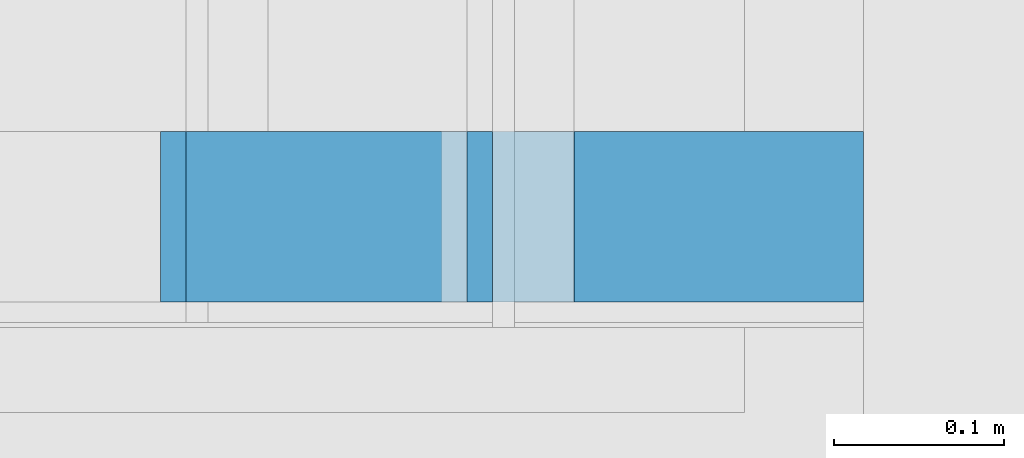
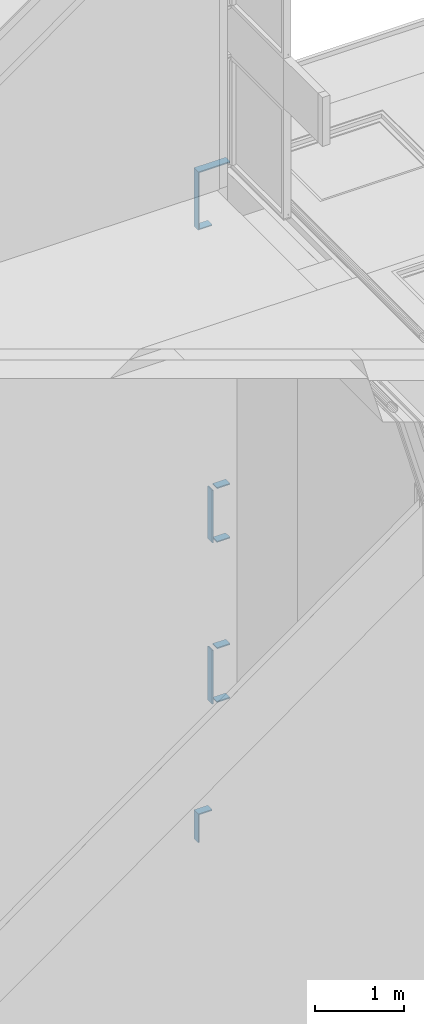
# One storey, part 194 of 583: 11 building element parts, 11 elements without a shape of their own.
"""IFC2X3 building model written with IfcOpenShell, lengths in metres."""

from ifc_helpers import new_model, entity, si_unit, converted_unit, derived_unit, money_unit, direction, frame, frame_2d, origin_with_axes, place, context, subcontext, project, spatial, polyline, rectangle, outline, extrude, material, type_object, element, aggregate, save


model = new_model("IFC2X3")

# Units and contexts
model_context = context("Model", 3, precision=1e-05, world=origin_with_axes(), true_north=direction((0.0, 1.0)))
body_context = subcontext(model_context, "Body", "Model", "MODEL_VIEW", scale=1.0)
ifc_project = project(units=[si_unit("LENGTHUNIT", "METRE"), si_unit("AREAUNIT", "SQUARE_METRE"), si_unit("VOLUMEUNIT", "CUBIC_METRE"), si_unit("ABSORBEDDOSEUNIT", "GRAY"), si_unit("AMOUNTOFSUBSTANCEUNIT", "MOLE"), si_unit("DOSEEQUIVALENTUNIT", "SIEVERT"), si_unit("ELECTRICCAPACITANCEUNIT", "FARAD"), si_unit("ELECTRICCHARGEUNIT", "COULOMB"), si_unit("ELECTRICCONDUCTANCEUNIT", "SIEMENS"), si_unit("ELECTRICCURRENTUNIT", "AMPERE"), si_unit("ELECTRICRESISTANCEUNIT", "OHM"), si_unit("ELECTRICVOLTAGEUNIT", "VOLT"), si_unit("ENERGYUNIT", "JOULE"), si_unit("FORCEUNIT", "NEWTON"), si_unit("FREQUENCYUNIT", "HERTZ"), si_unit("ILLUMINANCEUNIT", "LUX"), si_unit("INDUCTANCEUNIT", "HENRY"), si_unit("LUMINOUSFLUXUNIT", "LUMEN"), si_unit("LUMINOUSINTENSITYUNIT", "CANDELA"), si_unit("MAGNETICFLUXDENSITYUNIT", "TESLA"), si_unit("MAGNETICFLUXUNIT", "WEBER"), si_unit("MASSUNIT", "GRAM"), converted_unit("PLANEANGLEUNIT", "degree", entity("IfcReal", 0.0174532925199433), si_unit("PLANEANGLEUNIT", "RADIAN"), dimensions=[0, 0, 0, 0, 0, 0, 0]), si_unit("POWERUNIT", "WATT"), si_unit("PRESSUREUNIT", "PASCAL"), si_unit("RADIOACTIVITYUNIT", "BECQUEREL"), si_unit("SOLIDANGLEUNIT", "STERADIAN"), si_unit("THERMODYNAMICTEMPERATUREUNIT", "KELVIN"), si_unit("TIMEUNIT", "SECOND"), derived_unit("ACCELERATIONUNIT", [(si_unit("LENGTHUNIT", "METRE"), 1), (si_unit("TIMEUNIT", "SECOND"), -2)]), derived_unit("ANGULARVELOCITYUNIT", [(converted_unit("PLANEANGLEUNIT", "degree", entity("IfcReal", 0.0174532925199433), si_unit("PLANEANGLEUNIT", "RADIAN"), dimensions=[0, 0, 0, 0, 0, 0, 0]), 1), (si_unit("TIMEUNIT", "SECOND"), -1)]), derived_unit("CURVATUREUNIT", [(converted_unit("PLANEANGLEUNIT", "degree", entity("IfcReal", 0.0174532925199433), si_unit("PLANEANGLEUNIT", "RADIAN"), dimensions=[0, 0, 0, 0, 0, 0, 0]), 1), (si_unit("LENGTHUNIT", "METRE"), -1)]), derived_unit("DYNAMICVISCOSITYUNIT", [(si_unit("PRESSUREUNIT", "PASCAL"), 1), (si_unit("TIMEUNIT", "SECOND"), 1)]), derived_unit("HEATFLUXDENSITYUNIT", [(si_unit("POWERUNIT", "WATT"), 1), (si_unit("LENGTHUNIT", "METRE"), -2)]), derived_unit("HEATINGVALUEUNIT", [(si_unit("ENERGYUNIT", "JOULE"), 1), (si_unit("MASSUNIT", "GRAM"), -1)]), derived_unit("INTEGERCOUNTRATEUNIT", [(si_unit("TIMEUNIT", "SECOND"), -1)]), derived_unit("IONCONCENTRATIONUNIT", [(si_unit("MASSUNIT", "GRAM"), 1), (si_unit("VOLUMEUNIT", "CUBIC_METRE"), -1)]), derived_unit("ISOTHERMALMOISTURECAPACITYUNIT", [(si_unit("VOLUMEUNIT", "CUBIC_METRE"), 1), (si_unit("MASSUNIT", "GRAM"), -1)]), derived_unit("KINEMATICVISCOSITYUNIT", [(si_unit("AREAUNIT", "SQUARE_METRE"), 1), (si_unit("TIMEUNIT", "SECOND"), -1)]), derived_unit("LINEARFORCEUNIT", [(si_unit("FORCEUNIT", "NEWTON"), 1), (si_unit("LENGTHUNIT", "METRE"), -1)]), derived_unit("LINEARMOMENTUNIT", [(si_unit("FORCEUNIT", "NEWTON"), 1), (si_unit("LENGTHUNIT", "METRE"), -1)]), derived_unit("LINEARSTIFFNESSUNIT", [(si_unit("FORCEUNIT", "NEWTON"), 1), (si_unit("LENGTHUNIT", "METRE"), -1)]), derived_unit("LINEARVELOCITYUNIT", [(si_unit("LENGTHUNIT", "METRE"), 1), (si_unit("TIMEUNIT", "SECOND"), -1)]), derived_unit("LUMINOUSINTENSITYDISTRIBUTIONUNIT", [(si_unit("LUMINOUSINTENSITYUNIT", "CANDELA"), 1), (si_unit("LUMINOUSFLUXUNIT", "LUMEN"), -1)]), derived_unit("MASSDENSITYUNIT", [(si_unit("MASSUNIT", "GRAM"), 1), (si_unit("VOLUMEUNIT", "CUBIC_METRE"), -1)]), derived_unit("MASSFLOWRATEUNIT", [(si_unit("MASSUNIT", "GRAM"), 1), (si_unit("TIMEUNIT", "SECOND"), -1)]), derived_unit("MASSPERLENGTHUNIT", [(si_unit("MASSUNIT", "GRAM"), 1), (si_unit("LENGTHUNIT", "METRE"), -1)]), derived_unit("MODULUSOFELASTICITYUNIT", [(si_unit("FORCEUNIT", "NEWTON"), 1), (si_unit("AREAUNIT", "SQUARE_METRE"), -1)]), derived_unit("MODULUSOFLINEARSUBGRADEREACTIONUNIT", [(si_unit("FORCEUNIT", "NEWTON"), 1), (si_unit("LENGTHUNIT", "METRE"), -2)]), derived_unit("MODULUSOFROTATIONALSUBGRADEREACTIONUNIT", [(si_unit("FORCEUNIT", "NEWTON"), 1), (si_unit("LENGTHUNIT", "METRE"), 1)]), derived_unit("MODULUSOFSUBGRADEREACTIONUNIT", [(si_unit("FORCEUNIT", "NEWTON"), 1), (si_unit("VOLUMEUNIT", "CUBIC_METRE"), -1)]), derived_unit("MOISTUREDIFFUSIVITYUNIT", [(si_unit("VOLUMEUNIT", "CUBIC_METRE"), 1), (si_unit("TIMEUNIT", "SECOND"), -1)]), derived_unit("MOLECULARWEIGHTUNIT", [(si_unit("MASSUNIT", "GRAM"), 1), (si_unit("AMOUNTOFSUBSTANCEUNIT", "MOLE"), -1)]), derived_unit("PLANARFORCEUNIT", [(si_unit("FORCEUNIT", "NEWTON"), 1), (si_unit("LENGTHUNIT", "METRE"), -2)]), derived_unit("ROTATIONALFREQUENCYUNIT", [(si_unit("TIMEUNIT", "SECOND"), -1)]), derived_unit("ROTATIONALMASSUNIT", [(si_unit("MASSUNIT", "GRAM"), 1), (si_unit("LENGTHUNIT", "METRE"), 2)]), derived_unit("ROTATIONALSTIFFNESSUNIT", [(si_unit("FORCEUNIT", "NEWTON"), 1), (si_unit("LENGTHUNIT", "METRE"), 1), (converted_unit("PLANEANGLEUNIT", "degree", entity("IfcReal", 0.0174532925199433), si_unit("PLANEANGLEUNIT", "RADIAN"), dimensions=[0, 0, 0, 0, 0, 0, 0]), -1)]), derived_unit("SECTIONAREAINTEGRALUNIT", [(si_unit("LENGTHUNIT", "METRE"), 5)]), derived_unit("SECTIONMODULUSUNIT", [(si_unit("LENGTHUNIT", "METRE"), 3)]), derived_unit("SHEARMODULUSUNIT", [(si_unit("FORCEUNIT", "NEWTON"), 1), (si_unit("AREAUNIT", "SQUARE_METRE"), -1)]), derived_unit("SOUNDPOWERUNIT", [(si_unit("ENERGYUNIT", "JOULE"), 1), (si_unit("TIMEUNIT", "SECOND"), -1)]), derived_unit("SPECIFICHEATCAPACITYUNIT", [(si_unit("FORCEUNIT", "NEWTON"), 1), (si_unit("MASSUNIT", "GRAM"), -1), (si_unit("THERMODYNAMICTEMPERATUREUNIT", "KELVIN"), -1)]), derived_unit("TEMPERATUREGRADIENTUNIT", [(si_unit("THERMODYNAMICTEMPERATUREUNIT", "KELVIN"), 1), (si_unit("LENGTHUNIT", "METRE"), -1)]), derived_unit("THERMALADMITTANCEUNIT", [(si_unit("POWERUNIT", "WATT"), 1), (si_unit("AREAUNIT", "SQUARE_METRE"), -1), (si_unit("THERMODYNAMICTEMPERATUREUNIT", "KELVIN"), -1)]), derived_unit("THERMALCONDUCTANCEUNIT", [(si_unit("POWERUNIT", "WATT"), 1), (si_unit("LENGTHUNIT", "METRE"), -1), (si_unit("THERMODYNAMICTEMPERATUREUNIT", "KELVIN"), -1)]), derived_unit("THERMALEXPANSIONCOEFFICIENTUNIT", [(si_unit("THERMODYNAMICTEMPERATUREUNIT", "KELVIN"), -1)]), derived_unit("THERMALRESISTANCEUNIT", [(si_unit("AREAUNIT", "SQUARE_METRE"), 1), (si_unit("POWERUNIT", "WATT"), -1)]), derived_unit("THERMALTRANSMITTANCEUNIT", [(si_unit("POWERUNIT", "WATT"), 1), (si_unit("AREAUNIT", "SQUARE_METRE"), -1), (si_unit("THERMODYNAMICTEMPERATUREUNIT", "KELVIN"), -1)]), derived_unit("TORQUEUNIT", [(si_unit("FORCEUNIT", "NEWTON"), 1), (si_unit("LENGTHUNIT", "METRE"), 1)]), derived_unit("VAPORPERMEABILITYUNIT", [(si_unit("MASSUNIT", "GRAM"), 1), (si_unit("TIMEUNIT", "SECOND"), -1)]), derived_unit("VOLUMETRICFLOWRATEUNIT", [(si_unit("VOLUMEUNIT", "CUBIC_METRE"), 1), (si_unit("TIMEUNIT", "SECOND"), -1)]), derived_unit("WARPINGCONSTANTUNIT", [(si_unit("LENGTHUNIT", "METRE"), 6)]), derived_unit("WARPINGMOMENTUNIT", [(si_unit("FORCEUNIT", "NEWTON"), 1), (si_unit("LENGTHUNIT", "METRE"), 2)]), money_unit("GBP")], contexts=[model_context])

# Site, building, storey
site_placement = place(None, origin_with_axes())
site = spatial("IfcSite", under=ifc_project, at=site_placement, Name="Site", CompositionType="ELEMENT")
building_placement = place(site_placement, origin_with_axes())
building = spatial("IfcBuilding", under=site, at=building_placement, Name="Building01", CompositionType="ELEMENT")
storey_placement = place(building_placement, frame((0.0, 0.0, 20.78), z_axis=(0.0, 0.0, 1.0), x_axis=(1.0, 0.0, 0.0)))
storey = spatial("IfcBuildingStorey", under=building, at=storey_placement, Name="RL", CompositionType="ELEMENT", Elevation=20.78)

# Wall, building element part
wall_type = type_object("IfcWallType", Name="SHE_A-Walls_Type06d_ExternalWallInsulation_48mm", PredefinedType="NOTDEFINED")
wall_1_placement = place(storey_placement, frame((14.8, 5.15, -11.32), z_axis=(0.0, 1.0, 0.0), x_axis=(-1.0, 0.0, 0.0)))
wall_1 = element("IfcWall", 1, at=wall_1_placement, inside=storey, type_object=wall_type, Name="6D", ObjectType="SHE_A-Walls_Type06d_ExternalWallInsulation_48mm")
ifc_material = material(Name="A_BSUK_Walls_Timber")
building_element_part_1_placement = place(wall_1_placement, origin_with_axes())
building_element_part_1 = element("IfcBuildingElementPart", 2, at=building_element_part_1_placement, material=ifc_material, Name="2", context=body_context, shape_type="SweptSolid", body=[
    extrude(outline(polyline([(0.413, 0.063), (0.0, 0.063), (0.0, 0.048), (0.398, 0.048), (0.413, 0.063)])), frame((0.0, 0.0, 0.015), z_axis=(0.0, 0.0, 1.0), x_axis=(1.0, 0.0, 0.0)), (0.0, 0.0, 1.0), 0.1),
])
aggregate(wall_1, [building_element_part_1])

wall_2_placement = place(storey_placement, frame((14.45, 5.15, -11.284), z_axis=(0.0, 1.0, 0.0), x_axis=(0.0, 0.0, -1.0)))
wall_2 = element("IfcWall", 3, at=wall_2_placement, inside=storey, type_object=wall_type, Name="6D", ObjectType="SHE_A-Walls_Type06d_ExternalWallInsulation_48mm")
building_element_part_2_placement = place(wall_2_placement, origin_with_axes())
building_element_part_2 = element("IfcBuildingElementPart", 4, at=building_element_part_2_placement, material=ifc_material, Name="2", context=body_context, shape_type="SweptSolid", body=[
    extrude(outline(polyline([(0.769, 0.063), (-0.027, 0.063), (-0.012, 0.048), (0.754, 0.048), (0.769, 0.063)])), frame((0.0, 0.0, 0.015), z_axis=(0.0, 0.0, 1.0), x_axis=(1.0, 0.0, 0.0)), (0.0, 0.0, 1.0), 0.1),
])
aggregate(wall_2, [building_element_part_2])

wall_3_placement = place(storey_placement, frame((14.45, 5.15, -11.99), z_axis=(0.0, 1.0, 0.0), x_axis=(1.0, 0.0, 0.0)))
wall_3 = element("IfcWall", 5, at=wall_3_placement, inside=storey, type_object=wall_type, Name="6D", ObjectType="SHE_A-Walls_Type06d_ExternalWallInsulation_48mm")
building_element_part_3_placement = place(wall_3_placement, origin_with_axes())
building_element_part_3 = element("IfcBuildingElementPart", 6, at=building_element_part_3_placement, material=ifc_material, Name="2", context=body_context, shape_type="SweptSolid", body=[
    extrude(outline(polyline([(0.117, 0.063), (-0.063, 0.063), (-0.048, 0.048), (0.117, 0.048), (0.117, 0.063)])), frame((0.0, 0.0, 0.015), z_axis=(0.0, 0.0, 1.0), x_axis=(1.0, 0.0, 0.0)), (0.0, 0.0, 1.0), 0.1),
])
aggregate(wall_3, [building_element_part_3])

wall_4_placement = place(storey_placement, frame((14.63, 5.15, -15.687), z_axis=(0.0, 1.0, 0.0), x_axis=(1.0, 0.0, 0.0)))
wall_4 = element("IfcWall", 7, at=wall_4_placement, inside=storey, type_object=wall_type, Name="6D", ObjectType="SHE_A-Walls_Type06d_ExternalWallInsulation_48mm")
building_element_part_4_placement = place(wall_4_placement, origin_with_axes())
building_element_part_4 = element("IfcBuildingElementPart", 8, at=building_element_part_4_placement, material=ifc_material, Name="2", context=body_context, shape_type="SweptSolid", body=[
    extrude(rectangle(XDim=0.17, YDim=0.015, at=frame_2d((0.085, -0.0195), x_axis=(1.0, 0.0))), frame((0.0, 0.0, 0.015), z_axis=(0.0, 0.0, 1.0), x_axis=(1.0, 0.0, 0.0)), (0.0, 0.0, 1.0), 0.1),
])
aggregate(wall_4, [building_element_part_4])

wall_5_placement = place(storey_placement, frame((14.63, 5.15, -15.687), z_axis=(0.0, 1.0, 0.0), x_axis=(0.0, 0.0, -1.0)))
wall_5 = element("IfcWall", 9, at=wall_5_placement, inside=storey, type_object=wall_type, Name="6D", ObjectType="SHE_A-Walls_Type06d_ExternalWallInsulation_48mm")
building_element_part_5_placement = place(wall_5_placement, origin_with_axes())
building_element_part_5 = element("IfcBuildingElementPart", 10, at=building_element_part_5_placement, material=ifc_material, Name="2", context=body_context, shape_type="SweptSolid", body=[
    extrude(rectangle(XDim=0.72, YDim=0.015, at=frame_2d((0.348, 0.0555), x_axis=(1.0, 0.0))), frame((0.0, 0.0, 0.015), z_axis=(0.0, 0.0, 1.0), x_axis=(1.0, 0.0, 0.0)), (0.0, 0.0, 1.0), 0.1),
])
aggregate(wall_5, [building_element_part_5])

wall_6_placement = place(storey_placement, frame((14.63, 5.15, -16.383), z_axis=(0.0, 1.0, 0.0), x_axis=(1.0, 0.0, 0.0)))
wall_6 = element("IfcWall", 11, at=wall_6_placement, inside=storey, type_object=wall_type, Name="6D", ObjectType="SHE_A-Walls_Type06d_ExternalWallInsulation_48mm")
building_element_part_6_placement = place(wall_6_placement, origin_with_axes())
building_element_part_6 = element("IfcBuildingElementPart", 12, at=building_element_part_6_placement, material=ifc_material, Name="2", context=body_context, shape_type="SweptSolid", body=[
    extrude(rectangle(XDim=0.17, YDim=0.015, at=frame_2d((0.085, 0.0195), x_axis=(1.0, 0.0))), frame((0.0, 0.0, 0.015), z_axis=(0.0, 0.0, 1.0), x_axis=(1.0, 0.0, 0.0)), (0.0, 0.0, 1.0), 0.1),
])
aggregate(wall_6, [building_element_part_6])

wall_7_placement = place(storey_placement, frame((14.63, 5.15, -17.877), z_axis=(0.0, 1.0, 0.0), x_axis=(1.0, 0.0, 0.0)))
wall_7 = element("IfcWall", 13, at=wall_7_placement, inside=storey, type_object=wall_type, Name="6D", ObjectType="SHE_A-Walls_Type06d_ExternalWallInsulation_48mm")
building_element_part_7_placement = place(wall_7_placement, origin_with_axes())
building_element_part_7 = element("IfcBuildingElementPart", 14, at=building_element_part_7_placement, material=ifc_material, Name="2", context=body_context, shape_type="SweptSolid", body=[
    extrude(rectangle(XDim=0.17, YDim=0.015, at=frame_2d((0.085, -0.0195), x_axis=(1.0, 0.0))), frame((0.0, 0.0, 0.015), z_axis=(0.0, 0.0, 1.0), x_axis=(1.0, 0.0, 0.0)), (0.0, 0.0, 1.0), 0.1),
])
aggregate(wall_7, [building_element_part_7])

wall_8_placement = place(storey_placement, frame((14.63, 5.15, -17.877), z_axis=(0.0, 1.0, 0.0), x_axis=(0.0, 0.0, -1.0)))
wall_8 = element("IfcWall", 15, at=wall_8_placement, inside=storey, type_object=wall_type, Name="6D", ObjectType="SHE_A-Walls_Type06d_ExternalWallInsulation_48mm")
building_element_part_8_placement = place(wall_8_placement, origin_with_axes())
building_element_part_8 = element("IfcBuildingElementPart", 16, at=building_element_part_8_placement, material=ifc_material, Name="2", context=body_context, shape_type="SweptSolid", body=[
    extrude(rectangle(XDim=0.735, YDim=0.015, at=frame_2d((0.3555, 0.0555), x_axis=(1.0, 0.0))), frame((0.0, 0.0, 0.015), z_axis=(0.0, 0.0, 1.0), x_axis=(1.0, 0.0, 0.0)), (0.0, 0.0, 1.0), 0.1),
])
aggregate(wall_8, [building_element_part_8])

wall_9_placement = place(storey_placement, frame((14.63, 5.15, -18.573), z_axis=(0.0, 1.0, 0.0), x_axis=(1.0, 0.0, 0.0)))
wall_9 = element("IfcWall", 17, at=wall_9_placement, inside=storey, type_object=wall_type, Name="6D", ObjectType="SHE_A-Walls_Type06d_ExternalWallInsulation_48mm")
building_element_part_9_placement = place(wall_9_placement, origin_with_axes())
building_element_part_9 = element("IfcBuildingElementPart", 18, at=building_element_part_9_placement, material=ifc_material, Name="2", context=body_context, shape_type="SweptSolid", body=[
    extrude(rectangle(XDim=0.169655, YDim=0.015, at=frame_2d((0.085172, 0.0195), x_axis=(1.0, 0.0))), frame((0.0, 0.0, 0.015), z_axis=(0.0, 0.0, 1.0), x_axis=(1.0, 0.0, 0.0)), (0.0, 0.0, 1.0), 0.1),
])
aggregate(wall_9, [building_element_part_9])

wall_10_placement = place(storey_placement, frame((14.800002, 5.15, -20.103), z_axis=(0.0, 1.0, 0.0), x_axis=(-1.0, 0.0, 0.0)))
wall_10 = element("IfcWall", 19, at=wall_10_placement, inside=storey, type_object=wall_type, Name="6D", ObjectType="SHE_A-Walls_Type06d_ExternalWallInsulation_48mm")
building_element_part_10_placement = place(wall_10_placement, origin_with_axes())
building_element_part_10 = element("IfcBuildingElementPart", 20, at=building_element_part_10_placement, material=ifc_material, Name="2", context=body_context, shape_type="SweptSolid", body=[
    extrude(outline(polyline([(0.413002, 0.063), (0.233002, 0.063), (0.233002, 0.048), (0.398002, 0.048), (0.413002, 0.063)])), frame((0.0, 0.0, 0.015), z_axis=(0.0, 0.0, 1.0), x_axis=(1.0, 0.0, 0.0)), (0.0, 0.0, 1.0), 0.1),
])
aggregate(wall_10, [building_element_part_10])

wall_11_placement = place(storey_placement, frame((14.45, 5.15, -20.067), z_axis=(0.0, 1.0, 0.0), x_axis=(0.0, 0.0, -1.0)))
wall_11 = element("IfcWall", 21, at=wall_11_placement, inside=storey, type_object=wall_type, Name="6D", ObjectType="SHE_A-Walls_Type06d_ExternalWallInsulation_48mm")
building_element_part_11_placement = place(wall_11_placement, origin_with_axes())
building_element_part_11 = element("IfcBuildingElementPart", 22, at=building_element_part_11_placement, material=ifc_material, Name="2", context=body_context, shape_type="SweptSolid", body=[
    extrude(outline(polyline([(0.365, 0.063), (-0.027, 0.063), (-0.012, 0.048), (0.365, 0.048), (0.365, 0.063)])), frame((0.0, 0.0, 0.015), z_axis=(0.0, 0.0, 1.0), x_axis=(1.0, 0.0, 0.0)), (0.0, 0.0, 1.0), 0.1),
])
aggregate(wall_11, [building_element_part_11])

save(model, "model.ifc")
